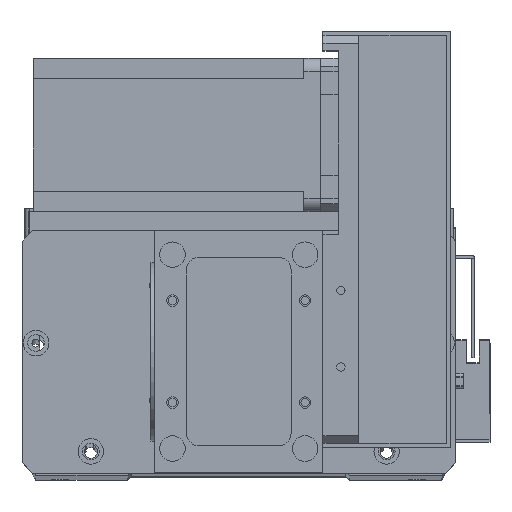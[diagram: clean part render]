
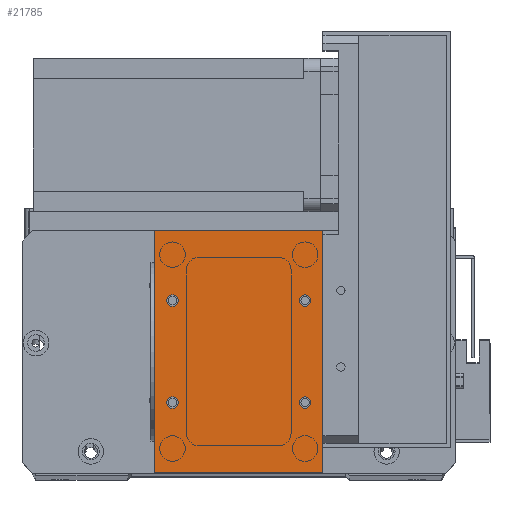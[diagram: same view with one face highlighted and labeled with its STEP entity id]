
A CAD part, top view. The second image highlights one B-rep face of the part: STEP entity #21785.
In plain terms, the highlighted planar face has unit normal (0, 0, 1).
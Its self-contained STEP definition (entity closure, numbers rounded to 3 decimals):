
#84 = CIRCLE ( 'NONE', #12198, 2.25 ) ;
#350 = EDGE_LOOP ( 'NONE', ( #9898, #15401 ) ) ;
#720 = VERTEX_POINT ( 'NONE', #15980 ) ;
#742 = EDGE_LOOP ( 'NONE', ( #22805, #31471 ) ) ;
#775 = EDGE_LOOP ( 'NONE', ( #10468, #13604, #10947, #20237 ) ) ;
#1073 = CARTESIAN_POINT ( 'NONE',  ( 59., 27.5, 2. ) ) ;
#1148 = CARTESIAN_POINT ( 'NONE',  ( 0., 0., 2. ) ) ;
#1260 = DIRECTION ( 'NONE',  ( 1., 0., 0. ) ) ;
#1374 = DIRECTION ( 'NONE',  ( 0., 0., 1. ) ) ;
#1495 = CARTESIAN_POINT ( 'NONE',  ( 59., 67.5, 2. ) ) ;
#1515 = AXIS2_PLACEMENT_3D ( 'NONE', #23168, #8450, #25652 ) ;
#1594 = CARTESIAN_POINT ( 'NONE',  ( 61.25, 27.5, 2. ) ) ;
#2642 = EDGE_CURVE ( 'NONE', #18044, #31604, #18966, .T. ) ;
#2960 = VERTEX_POINT ( 'NONE', #30776 ) ;
#3065 = EDGE_CURVE ( 'NONE', #23122, #24753, #84, .T. ) ;
#3238 = CIRCLE ( 'NONE', #1515, 2.25 ) ;
#3523 = DIRECTION ( 'NONE',  ( 1., 0., 0. ) ) ;
#4021 = LINE ( 'NONE', #22700, #9033 ) ;
#4200 = CARTESIAN_POINT ( 'NONE',  ( 9.25, 67.5, 2. ) ) ;
#4408 = AXIS2_PLACEMENT_3D ( 'NONE', #12672, #29814, #15136 ) ;
#4473 = EDGE_CURVE ( 'NONE', #24753, #23122, #12305, .T. ) ;
#4560 = AXIS2_PLACEMENT_3D ( 'NONE', #6240, #22028, #27831 ) ;
#5014 = EDGE_CURVE ( 'NONE', #2960, #15942, #13795, .T. ) ;
#5485 = CARTESIAN_POINT ( 'NONE',  ( 7., 27.5, 2. ) ) ;
#5974 = DIRECTION ( 'NONE',  ( 1., 0., 0. ) ) ;
#6231 = AXIS2_PLACEMENT_3D ( 'NONE', #1073, #18262, #3523 ) ;
#6240 = CARTESIAN_POINT ( 'NONE',  ( 7., 67.5, 2. ) ) ;
#7266 = EDGE_CURVE ( 'NONE', #24693, #720, #7818, .T. ) ;
#7781 = DIRECTION ( 'NONE',  ( 0., 0., 1. ) ) ;
#7818 = LINE ( 'NONE', #21591, #27397 ) ;
#7974 = DIRECTION ( 'NONE',  ( 1., 0., 0. ) ) ;
#8027 = ORIENTED_EDGE ( 'NONE', *, *, #10790, .F. ) ;
#8259 = VECTOR ( 'NONE', #5974, 1000. ) ;
#8450 = DIRECTION ( 'NONE',  ( 0., 0., 1. ) ) ;
#8561 = FACE_OUTER_BOUND ( 'NONE', #775, .T. ) ;
#8691 = CIRCLE ( 'NONE', #6231, 2.25 ) ;
#8967 = VERTEX_POINT ( 'NONE', #17337 ) ;
#9033 = VECTOR ( 'NONE', #15398, 1000. ) ;
#9339 = FACE_BOUND ( 'NONE', #27333, .T. ) ;
#9426 = DIRECTION ( 'NONE',  ( 1., 0., 0. ) ) ;
#9743 = DIRECTION ( 'NONE',  ( 0., 0., 1. ) ) ;
#9898 = ORIENTED_EDGE ( 'NONE', *, *, #18528, .F. ) ;
#9955 = CARTESIAN_POINT ( 'NONE',  ( 59., 67.5, 2. ) ) ;
#10468 = ORIENTED_EDGE ( 'NONE', *, *, #5014, .T. ) ;
#10761 = VERTEX_POINT ( 'NONE', #24975 ) ;
#10790 = EDGE_CURVE ( 'NONE', #8967, #26075, #27250, .T. ) ;
#10947 = ORIENTED_EDGE ( 'NONE', *, *, #7266, .T. ) ;
#11238 = CARTESIAN_POINT ( 'NONE',  ( 0., 0., 2. ) ) ;
#11998 = ORIENTED_EDGE ( 'NONE', *, *, #19161, .F. ) ;
#12198 = AXIS2_PLACEMENT_3D ( 'NONE', #9955, #9743, #9426 ) ;
#12305 = CIRCLE ( 'NONE', #15734, 2.25 ) ;
#12672 = CARTESIAN_POINT ( 'NONE',  ( 7., 67.5, 2. ) ) ;
#13127 = CARTESIAN_POINT ( 'NONE',  ( 61.25, 67.5, 2. ) ) ;
#13604 = ORIENTED_EDGE ( 'NONE', *, *, #19212, .T. ) ;
#13719 = DIRECTION ( 'NONE',  ( -1., 0., 0. ) ) ;
#13733 = CARTESIAN_POINT ( 'NONE',  ( 9.25, 27.5, 2. ) ) ;
#13795 = LINE ( 'NONE', #25327, #31828 ) ;
#14802 = LINE ( 'NONE', #1148, #8259 ) ;
#15094 = FACE_BOUND ( 'NONE', #350, .T. ) ;
#15136 = DIRECTION ( 'NONE',  ( 1., 0., 0. ) ) ;
#15398 = DIRECTION ( 'NONE',  ( -1., 0., 0. ) ) ;
#15401 = ORIENTED_EDGE ( 'NONE', *, *, #27083, .F. ) ;
#15734 = AXIS2_PLACEMENT_3D ( 'NONE', #1495, #1374, #1260 ) ;
#15878 = FACE_BOUND ( 'NONE', #23488, .T. ) ;
#15942 = VERTEX_POINT ( 'NONE', #30962 ) ;
#15980 = CARTESIAN_POINT ( 'NONE',  ( 66., 95., 2. ) ) ;
#17131 = CIRCLE ( 'NONE', #30933, 2.25 ) ;
#17337 = CARTESIAN_POINT ( 'NONE',  ( 4.75, 27.5, 2. ) ) ;
#18044 = VERTEX_POINT ( 'NONE', #18181 ) ;
#18181 = CARTESIAN_POINT ( 'NONE',  ( 4.75, 67.5, 2. ) ) ;
#18262 = DIRECTION ( 'NONE',  ( 0., 0., 1. ) ) ;
#18528 = EDGE_CURVE ( 'NONE', #21863, #10761, #8691, .T. ) ;
#18966 = CIRCLE ( 'NONE', #4560, 2.25 ) ;
#19070 = AXIS2_PLACEMENT_3D ( 'NONE', #11238, #21023, #13719 ) ;
#19161 = EDGE_CURVE ( 'NONE', #26075, #8967, #3238, .T. ) ;
#19212 = EDGE_CURVE ( 'NONE', #15942, #24693, #14802, .T. ) ;
#20237 = ORIENTED_EDGE ( 'NONE', *, *, #27176, .T. ) ;
#21023 = DIRECTION ( 'NONE',  ( 0., 0., -1. ) ) ;
#21414 = ORIENTED_EDGE ( 'NONE', *, *, #4473, .F. ) ;
#21591 = CARTESIAN_POINT ( 'NONE',  ( 66., 0., 2. ) ) ;
#21648 = FACE_BOUND ( 'NONE', #742, .T. ) ;
#21739 = CIRCLE ( 'NONE', #4408, 2.25 ) ;
#21785 = ADVANCED_FACE ( 'NONE', ( #21648, #15878, #15094, #9339, #8561 ), #25966, .F. ) ;
#21863 = VERTEX_POINT ( 'NONE', #1594 ) ;
#22028 = DIRECTION ( 'NONE',  ( 0., 0., 1. ) ) ;
#22491 = CARTESIAN_POINT ( 'NONE',  ( 59., 27.5, 2. ) ) ;
#22688 = DIRECTION ( 'NONE',  ( 0., 0., 1. ) ) ;
#22700 = CARTESIAN_POINT ( 'NONE',  ( 0., 95., 2. ) ) ;
#22805 = ORIENTED_EDGE ( 'NONE', *, *, #27761, .F. ) ;
#22985 = ORIENTED_EDGE ( 'NONE', *, *, #3065, .F. ) ;
#23122 = VERTEX_POINT ( 'NONE', #13127 ) ;
#23168 = CARTESIAN_POINT ( 'NONE',  ( 7., 27.5, 2. ) ) ;
#23488 = EDGE_LOOP ( 'NONE', ( #22985, #21414 ) ) ;
#24693 = VERTEX_POINT ( 'NONE', #31802 ) ;
#24753 = VERTEX_POINT ( 'NONE', #24763 ) ;
#24763 = CARTESIAN_POINT ( 'NONE',  ( 56.75, 67.5, 2. ) ) ;
#24975 = CARTESIAN_POINT ( 'NONE',  ( 56.75, 27.5, 2. ) ) ;
#24990 = DIRECTION ( 'NONE',  ( 1., 0., 0. ) ) ;
#25327 = CARTESIAN_POINT ( 'NONE',  ( 0., 0., 2. ) ) ;
#25370 = DIRECTION ( 'NONE',  ( 0., -1., 0. ) ) ;
#25652 = DIRECTION ( 'NONE',  ( 1., 0., 0. ) ) ;
#25966 = PLANE ( 'NONE',  #19070 ) ;
#26075 = VERTEX_POINT ( 'NONE', #13733 ) ;
#26383 = DIRECTION ( 'NONE',  ( 0., 1., 0. ) ) ;
#27083 = EDGE_CURVE ( 'NONE', #10761, #21863, #17131, .T. ) ;
#27176 = EDGE_CURVE ( 'NONE', #720, #2960, #4021, .T. ) ;
#27250 = CIRCLE ( 'NONE', #28071, 2.25 ) ;
#27333 = EDGE_LOOP ( 'NONE', ( #11998, #8027 ) ) ;
#27397 = VECTOR ( 'NONE', #26383, 1000. ) ;
#27761 = EDGE_CURVE ( 'NONE', #31604, #18044, #21739, .T. ) ;
#27831 = DIRECTION ( 'NONE',  ( 1., 0., 0. ) ) ;
#28071 = AXIS2_PLACEMENT_3D ( 'NONE', #5485, #22688, #7974 ) ;
#29814 = DIRECTION ( 'NONE',  ( 0., 0., 1. ) ) ;
#30776 = CARTESIAN_POINT ( 'NONE',  ( 0., 95., 2. ) ) ;
#30933 = AXIS2_PLACEMENT_3D ( 'NONE', #22491, #7781, #24990 ) ;
#30962 = CARTESIAN_POINT ( 'NONE',  ( 0., 0., 2. ) ) ;
#31471 = ORIENTED_EDGE ( 'NONE', *, *, #2642, .F. ) ;
#31604 = VERTEX_POINT ( 'NONE', #4200 ) ;
#31802 = CARTESIAN_POINT ( 'NONE',  ( 66., 0., 2. ) ) ;
#31828 = VECTOR ( 'NONE', #25370, 1000. ) ;
